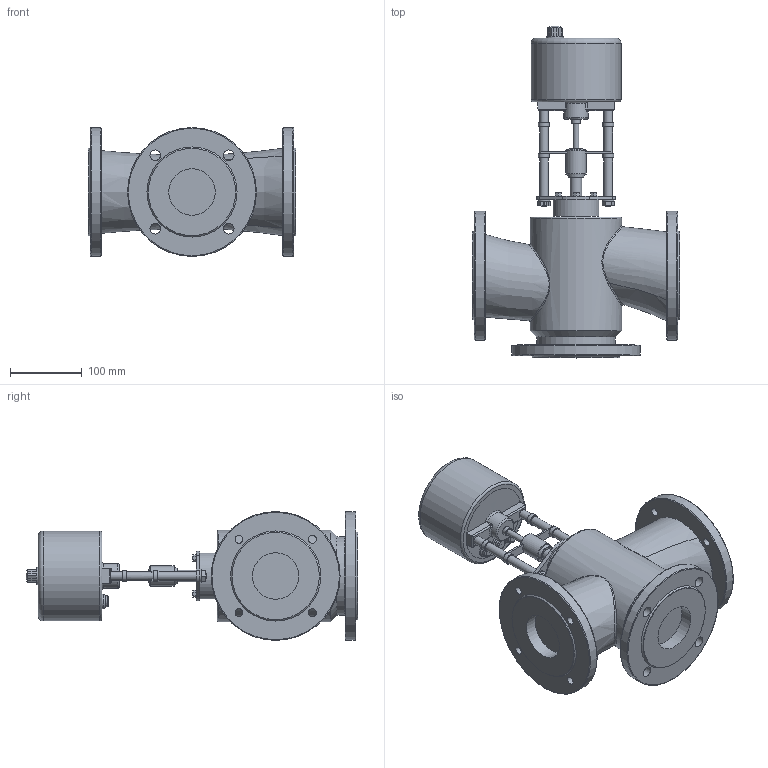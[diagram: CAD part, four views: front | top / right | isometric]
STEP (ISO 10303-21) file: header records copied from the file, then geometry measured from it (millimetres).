
FILE_DESCRIPTION(/* description */ (''),/* implementation_level */ '2;1');
FILE_NAME(/* name */ 'D:\Работа\work by\2017.01.17. клапаны для КПСР 3-хходоввые\Готовые файлы\ES 06\iges\ду 65.stp',/* time_stamp */ '2017-02-19T18:20:37+03:00',/* author */ ('Admin'),/* organization */ ('unknown'),/* preprocessor_version */ 'ST-DEVELOPER v16.1',/* originating_system */ 'Autodesk Inventor 2016',/* authorisation */ '');
FILE_SCHEMA (('AUTOMOTIVE_DESIGN { 1 0 10303 214 3 1 1 }'));
Length unit declared in the file: millimetre
Products named in the file (1): ду 65
Bounding box: 290 x 463.8 x 180 mm (x, y, z)
Volume: 5973785 mm3; surface area: 384663.9 mm2
Topology: 9 solids, 11 shells, 306 faces, 688 edges, 431 vertices
Faces by surface type: plane 162, cylinder 81, cone 27, torus 23, bspline 12, sphere 1
Full cylindrical faces by diameter (mm): 7.507 x2, 8 x3, 8.4 x4, 9.22 x1, 11 x8, 12 x7, 15 x8, 16 x1, 16.893 x2, 20.262 x3, 24 x1, 28 x1, 30 x1, 34.989 x1, 40 x1, 64 x1, 65 x3, 110.2 x1, 122 x3, 125.738 x1, 127.6 x1, 180 x3
Entity records: 9412 total; most frequent: CARTESIAN_POINT 3030, DIRECTION 1340, ORIENTED_EDGE 1122, EDGE_CURVE 559, AXIS2_PLACEMENT_3D 541, EDGE_LOOP 468, VERTEX_POINT 404, FACE_OUTER_BOUND 306
